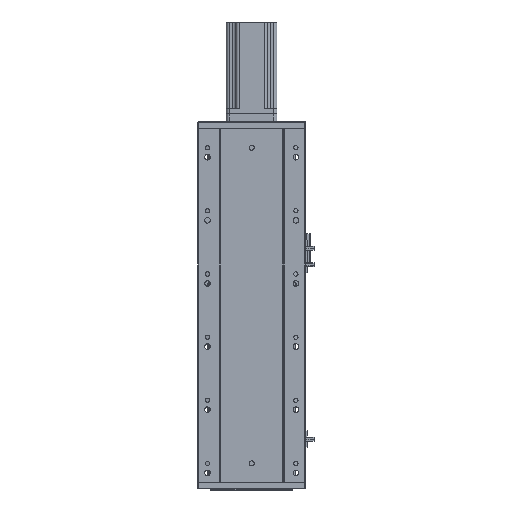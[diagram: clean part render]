
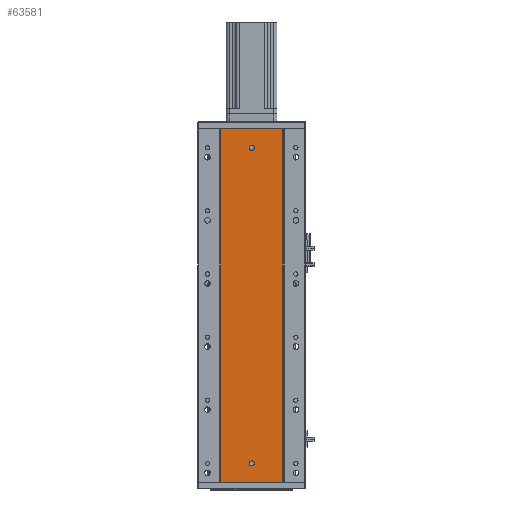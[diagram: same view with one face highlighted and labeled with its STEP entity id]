
A CAD part, front view. The second image highlights one B-rep face of the part: STEP entity #63581.
In plain terms, the highlighted planar face has unit normal (0, -1, 0).
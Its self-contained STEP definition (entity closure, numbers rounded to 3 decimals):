
#2635 = CARTESIAN_POINT ( 'NONE',  ( 185.97, 79.476, 0. ) ) ;
#3206 = ORIENTED_EDGE ( 'NONE', *, *, #24775, .T. ) ;
#3280 = DIRECTION ( 'NONE',  ( 0., 0., 1. ) ) ;
#3422 = DIRECTION ( 'NONE',  ( 0., 0., -1. ) ) ;
#3457 = VERTEX_POINT ( 'NONE', #7155 ) ;
#4483 = VERTEX_POINT ( 'NONE', #31899 ) ;
#7155 = CARTESIAN_POINT ( 'NONE',  ( 136.47, 79.476, 26. ) ) ;
#7280 = CARTESIAN_POINT ( 'NONE',  ( 86.97, 79.476, 373.333 ) ) ;
#8543 = AXIS2_PLACEMENT_3D ( 'NONE', #51003, #23675, #3280 ) ;
#8816 = LINE ( 'NONE', #29115, #54165 ) ;
#9449 = AXIS2_PLACEMENT_3D ( 'NONE', #24793, #46412, #67458 ) ;
#11118 = DIRECTION ( 'NONE',  ( 0., 0., -1. ) ) ;
#11269 = ORIENTED_EDGE ( 'NONE', *, *, #63657, .F. ) ;
#11552 = ORIENTED_EDGE ( 'NONE', *, *, #35122, .T. ) ;
#11810 = CARTESIAN_POINT ( 'NONE',  ( 136.47, 79.476, 530. ) ) ;
#12390 = CARTESIAN_POINT ( 'NONE',  ( 86.97, 79.476, 186.667 ) ) ;
#14866 = AXIS2_PLACEMENT_3D ( 'NONE', #16466, #43404, #11118 ) ;
#15331 = ORIENTED_EDGE ( 'NONE', *, *, #40544, .F. ) ;
#16153 = EDGE_LOOP ( 'NONE', ( #49467, #15331 ) ) ;
#16466 = CARTESIAN_POINT ( 'NONE',  ( 136.47, 79.476, 530. ) ) ;
#17507 = FACE_BOUND ( 'NONE', #16153, .T. ) ;
#18281 = CARTESIAN_POINT ( 'NONE',  ( 86.97, 79.476, 560. ) ) ;
#18286 = VERTEX_POINT ( 'NONE', #56342 ) ;
#19004 = VECTOR ( 'NONE', #65775, 1000. ) ;
#19959 = EDGE_LOOP ( 'NONE', ( #11552, #52215, #50873, #3206 ) ) ;
#21738 = EDGE_CURVE ( 'NONE', #32573, #45578, #51078, .T. ) ;
#23298 = B_SPLINE_CURVE_WITH_KNOTS ( 'NONE', 3,
 ( #49479, #7280, #12390, #38688 ),
 .UNSPECIFIED., .F., .F.,
 ( 4, 4 ),
 ( 0., 1. ),
 .UNSPECIFIED. ) ;
#23675 = DIRECTION ( 'NONE',  ( 0., 1., 0. ) ) ;
#24205 = CIRCLE ( 'NONE', #35075, 4. ) ;
#24775 = EDGE_CURVE ( 'NONE', #32573, #18286, #23298, .T. ) ;
#24793 = CARTESIAN_POINT ( 'NONE',  ( 136.47, 79.476, 30. ) ) ;
#25725 = EDGE_CURVE ( 'NONE', #4483, #43621, #36661, .T. ) ;
#29115 = CARTESIAN_POINT ( 'NONE',  ( 0., 79.476, 0. ) ) ;
#29835 = CARTESIAN_POINT ( 'NONE',  ( 185.97, 79.476, 186.667 ) ) ;
#29892 = CIRCLE ( 'NONE', #9449, 4. ) ;
#31099 = ORIENTED_EDGE ( 'NONE', *, *, #35118, .F. ) ;
#31899 = CARTESIAN_POINT ( 'NONE',  ( 136.47, 79.476, 526. ) ) ;
#32573 = VERTEX_POINT ( 'NONE', #18281 ) ;
#35075 = AXIS2_PLACEMENT_3D ( 'NONE', #11810, #48879, #48215 ) ;
#35118 = EDGE_CURVE ( 'NONE', #3457, #65197, #36886, .T. ) ;
#35122 = EDGE_CURVE ( 'NONE', #18286, #65606, #8816, .T. ) ;
#36661 = CIRCLE ( 'NONE', #14866, 4. ) ;
#36886 = CIRCLE ( 'NONE', #54596, 4. ) ;
#38688 = CARTESIAN_POINT ( 'NONE',  ( 86.97, 79.476, 0. ) ) ;
#40544 = EDGE_CURVE ( 'NONE', #43621, #4483, #24205, .T. ) ;
#42829 = B_SPLINE_CURVE_WITH_KNOTS ( 'NONE', 3,
 ( #44805, #45251, #29835, #61650 ),
 .UNSPECIFIED., .F., .F.,
 ( 4, 4 ),
 ( 0., 1. ),
 .UNSPECIFIED. ) ;
#43404 = DIRECTION ( 'NONE',  ( 0., -1., 0. ) ) ;
#43621 = VERTEX_POINT ( 'NONE', #46865 ) ;
#44805 = CARTESIAN_POINT ( 'NONE',  ( 185.97, 79.476, 560. ) ) ;
#45251 = CARTESIAN_POINT ( 'NONE',  ( 185.97, 79.476, 373.333 ) ) ;
#45543 = FACE_OUTER_BOUND ( 'NONE', #19959, .T. ) ;
#45578 = VERTEX_POINT ( 'NONE', #64987 ) ;
#45615 = CARTESIAN_POINT ( 'NONE',  ( 136.47, 79.476, 34. ) ) ;
#46412 = DIRECTION ( 'NONE',  ( 0., -1., 0. ) ) ;
#46865 = CARTESIAN_POINT ( 'NONE',  ( 136.47, 79.476, 534. ) ) ;
#48215 = DIRECTION ( 'NONE',  ( 0., 0., -1. ) ) ;
#48879 = DIRECTION ( 'NONE',  ( 0., -1., 0. ) ) ;
#49467 = ORIENTED_EDGE ( 'NONE', *, *, #25725, .F. ) ;
#49479 = CARTESIAN_POINT ( 'NONE',  ( 86.97, 79.476, 560. ) ) ;
#50030 = DIRECTION ( 'NONE',  ( 1., 0., 0. ) ) ;
#50696 = CARTESIAN_POINT ( 'NONE',  ( 136.47, 79.476, 30. ) ) ;
#50873 = ORIENTED_EDGE ( 'NONE', *, *, #21738, .F. ) ;
#51003 = CARTESIAN_POINT ( 'NONE',  ( 0., 79.476, 560. ) ) ;
#51078 = LINE ( 'NONE', #60435, #19004 ) ;
#52215 = ORIENTED_EDGE ( 'NONE', *, *, #66180, .F. ) ;
#54165 = VECTOR ( 'NONE', #50030, 1000. ) ;
#54596 = AXIS2_PLACEMENT_3D ( 'NONE', #50696, #66694, #3422 ) ;
#55370 = FACE_BOUND ( 'NONE', #61977, .T. ) ;
#56342 = CARTESIAN_POINT ( 'NONE',  ( 86.97, 79.476, 0. ) ) ;
#60435 = CARTESIAN_POINT ( 'NONE',  ( 0., 79.476, 560. ) ) ;
#61650 = CARTESIAN_POINT ( 'NONE',  ( 185.97, 79.476, 0. ) ) ;
#61977 = EDGE_LOOP ( 'NONE', ( #31099, #11269 ) ) ;
#63581 = ADVANCED_FACE ( 'NONE', ( #17507, #55370, #45543 ), #66555, .F. ) ;
#63657 = EDGE_CURVE ( 'NONE', #65197, #3457, #29892, .T. ) ;
#64987 = CARTESIAN_POINT ( 'NONE',  ( 185.97, 79.476, 560. ) ) ;
#65197 = VERTEX_POINT ( 'NONE', #45615 ) ;
#65606 = VERTEX_POINT ( 'NONE', #2635 ) ;
#65775 = DIRECTION ( 'NONE',  ( 1., 0., 0. ) ) ;
#66180 = EDGE_CURVE ( 'NONE', #45578, #65606, #42829, .T. ) ;
#66555 = PLANE ( 'NONE',  #8543 ) ;
#66694 = DIRECTION ( 'NONE',  ( 0., -1., 0. ) ) ;
#67458 = DIRECTION ( 'NONE',  ( 0., 0., -1. ) ) ;
